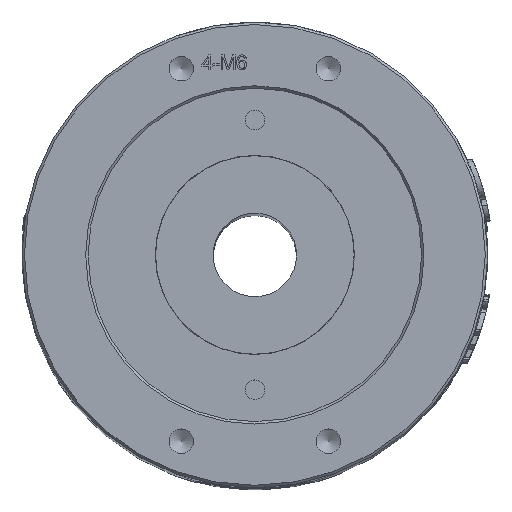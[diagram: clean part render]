
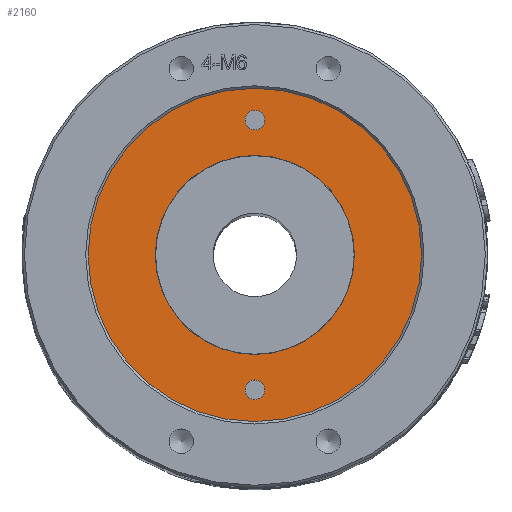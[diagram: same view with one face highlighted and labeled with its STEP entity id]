
A CAD part, top view. The second image highlights one B-rep face of the part: STEP entity #2160.
In plain terms, the highlighted planar face has unit normal (0, 0, 1).
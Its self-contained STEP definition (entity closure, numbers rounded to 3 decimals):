
#508=FACE_BOUND('',#4767,.T.);
#509=FACE_BOUND('',#4768,.T.);
#510=FACE_BOUND('',#4769,.T.);
#511=FACE_BOUND('',#4770,.T.);
#1016=CIRCLE('',#19333,20.3);
#1017=CIRCLE('',#19335,2.);
#1018=CIRCLE('',#19337,2.);
#1019=CIRCLE('',#19339,34.);
#2160=ADVANCED_FACE('',(#508,#509,#510,#511),#2937,.T.);
#2937=PLANE('',#19340);
#4767=EDGE_LOOP('',(#9767));
#4768=EDGE_LOOP('',(#9768));
#4769=EDGE_LOOP('',(#9769));
#4770=EDGE_LOOP('',(#9770));
#9767=ORIENTED_EDGE('',*,*,#15766,.T.);
#9768=ORIENTED_EDGE('',*,*,#15765,.T.);
#9769=ORIENTED_EDGE('',*,*,#15764,.T.);
#9770=ORIENTED_EDGE('',*,*,#15767,.F.);
#13379=VERTEX_POINT('',#39473);
#13380=VERTEX_POINT('',#39476);
#13381=VERTEX_POINT('',#39479);
#13382=VERTEX_POINT('',#39482);
#15764=EDGE_CURVE('',#13379,#13379,#1016,.T.);
#15765=EDGE_CURVE('',#13380,#13380,#1017,.T.);
#15766=EDGE_CURVE('',#13381,#13381,#1018,.T.);
#15767=EDGE_CURVE('',#13382,#13382,#1019,.T.);
#19333=AXIS2_PLACEMENT_3D('',#39472,#21798,#21799);
#19335=AXIS2_PLACEMENT_3D('',#39475,#21802,#21803);
#19337=AXIS2_PLACEMENT_3D('',#39478,#21806,#21807);
#19339=AXIS2_PLACEMENT_3D('',#39481,#21810,#21811);
#19340=AXIS2_PLACEMENT_3D('',#39483,#21812,#21813);
#21798=DIRECTION('',(0.,0.,-1.));
#21799=DIRECTION('',(1.,0.,0.));
#21802=DIRECTION('',(0.,0.,-1.));
#21803=DIRECTION('',(1.,0.,0.));
#21806=DIRECTION('',(0.,0.,-1.));
#21807=DIRECTION('',(1.,0.,0.));
#21810=DIRECTION('',(0.,0.,-1.));
#21811=DIRECTION('',(1.,0.,0.));
#21812=DIRECTION('',(0.,0.,1.));
#21813=DIRECTION('',(1.,0.,0.));
#39472=CARTESIAN_POINT('',(0.,0.,276.5));
#39473=CARTESIAN_POINT('',(20.3,0.,276.5));
#39475=CARTESIAN_POINT('',(0.,-27.5,276.5));
#39476=CARTESIAN_POINT('',(2.,-27.5,276.5));
#39478=CARTESIAN_POINT('',(0.,27.5,276.5));
#39479=CARTESIAN_POINT('',(2.,27.5,276.5));
#39481=CARTESIAN_POINT('',(0.,0.,276.5));
#39482=CARTESIAN_POINT('',(34.,0.,276.5));
#39483=CARTESIAN_POINT('',(0.,0.,276.5));
